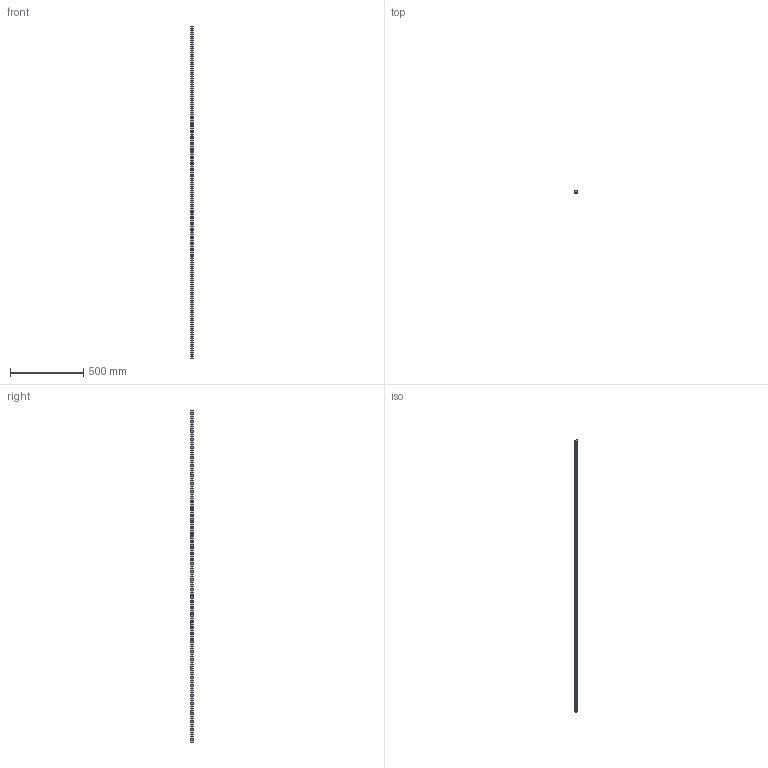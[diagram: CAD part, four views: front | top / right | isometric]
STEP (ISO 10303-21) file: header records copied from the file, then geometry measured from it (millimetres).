
FILE_DESCRIPTION (( 'STEP AP203' ), '1' );
FILE_NAME ('L1016.BL20-2260.step', '2019-06-12T11:52:19', ( '' ), ( '' ), 'SwSTEP 2.0', 'SolidWorks 2017', '' );
FILE_SCHEMA (( 'CONFIG_CONTROL_DESIGN' ));
Length unit declared in the file: millimetre
Products named in the file (1): L1016.BL20-2260
Bounding box: 20 x 16.3 x 2260 mm (x, y, z)
Volume: 628155.7 mm3; surface area: 181945.4 mm2
Topology: 1 solids, 1 shells, 216 faces, 528 edges, 352 vertices
Faces by surface type: cylinder 156, plane 60
Entity records: 6753 total; most frequent: DIRECTION 1274, CARTESIAN_POINT 1097, ORIENTED_EDGE 1056, AXIS2_PLACEMENT_3D 529, EDGE_CURVE 528, VERTEX_POINT 352, EDGE_LOOP 330, CIRCLE 312
